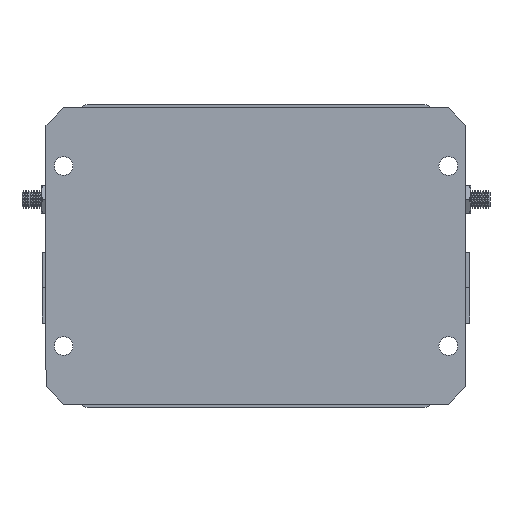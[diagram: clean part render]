
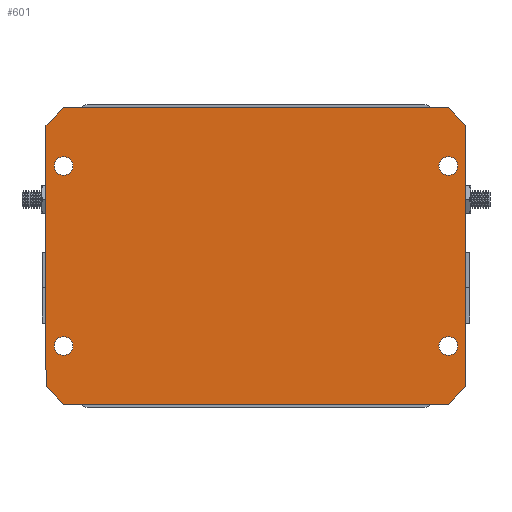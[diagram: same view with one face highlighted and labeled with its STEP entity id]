
A CAD part, front view. The second image highlights one B-rep face of the part: STEP entity #601.
In plain terms, the highlighted planar face has unit normal (0, -1, 0).
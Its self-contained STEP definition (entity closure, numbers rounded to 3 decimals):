
#132 = EDGE_CURVE ( 'NONE', #947, #4881, #6973, .T. ) ;
#133 = CIRCLE ( 'NONE', #2705, 2.65 ) ;
#193 = EDGE_CURVE ( 'NONE', #4598, #6198, #914, .T. ) ;
#228 = EDGE_CURVE ( 'NONE', #1723, #5619, #1103, .T. ) ;
#312 = PLANE ( 'NONE',  #2478 ) ;
#375 = ORIENTED_EDGE ( 'NONE', *, *, #6535, .F. ) ;
#391 = CARTESIAN_POINT ( 'NONE',  ( -104., -1.2, -68.5 ) ) ;
#417 = CARTESIAN_POINT ( 'NONE',  ( 5., -1.2, -68.5 ) ) ;
#507 = AXIS2_PLACEMENT_3D ( 'NONE', #5393, #4198, #525 ) ;
#525 = DIRECTION ( 'NONE',  ( 0., 0., 1. ) ) ;
#601 = ADVANCED_FACE ( 'NONE', ( #7965, #768, #3085, #958, #6072 ), #312, .T. ) ;
#612 = CARTESIAN_POINT ( 'NONE',  ( -104., -1.2, -85. ) ) ;
#752 = CIRCLE ( 'NONE', #2313, 2.65 ) ;
#768 = FACE_BOUND ( 'NONE', #3911, .T. ) ;
#791 = CARTESIAN_POINT ( 'NONE',  ( -109., -1.2, -1. ) ) ;
#850 = CARTESIAN_POINT ( 'NONE',  ( -10., -1.2, -100. ) ) ;
#914 = LINE ( 'NONE', #4126, #2171 ) ;
#919 = VECTOR ( 'NONE', #7875, 1000. ) ;
#942 = CARTESIAN_POINT ( 'NONE',  ( 10., -1.2, -80. ) ) ;
#947 = VERTEX_POINT ( 'NONE', #3669 ) ;
#958 = FACE_BOUND ( 'NONE', #4699, .T. ) ;
#1019 = CARTESIAN_POINT ( 'NONE',  ( -104., -1.2, -71.15 ) ) ;
#1035 = ORIENTED_EDGE ( 'NONE', *, *, #2577, .F. ) ;
#1079 = DIRECTION ( 'NONE',  ( 0., -1., 0. ) ) ;
#1099 = LINE ( 'NONE', #2794, #7264 ) ;
#1103 = LINE ( 'NONE', #7756, #5627 ) ;
#1287 = CARTESIAN_POINT ( 'NONE',  ( -104., -1.2, -65.85 ) ) ;
#1399 = DIRECTION ( 'NONE',  ( 0., 0., -1. ) ) ;
#1604 = DIRECTION ( 'NONE',  ( 0., 0., -1. ) ) ;
#1723 = VERTEX_POINT ( 'NONE', #942 ) ;
#1784 = VERTEX_POINT ( 'NONE', #2339 ) ;
#1894 = DIRECTION ( 'NONE',  ( 0., -1., 0. ) ) ;
#1913 = CARTESIAN_POINT ( 'NONE',  ( -106.5, -1.2, -3.5 ) ) ;
#1921 = DIRECTION ( 'NONE',  ( 0., 0., -1. ) ) ;
#1936 = EDGE_CURVE ( 'NONE', #2218, #3774, #5848, .T. ) ;
#2119 = CARTESIAN_POINT ( 'NONE',  ( -104., -1.2, -14.85 ) ) ;
#2171 = VECTOR ( 'NONE', #7242, 1000. ) ;
#2218 = VERTEX_POINT ( 'NONE', #2926 ) ;
#2243 = DIRECTION ( 'NONE',  ( 0., 0., -1. ) ) ;
#2313 = AXIS2_PLACEMENT_3D ( 'NONE', #6822, #1894, #1921 ) ;
#2316 = CARTESIAN_POINT ( 'NONE',  ( 5., -1.2, -1. ) ) ;
#2339 = CARTESIAN_POINT ( 'NONE',  ( 5., -1.2, -14.85 ) ) ;
#2420 = VERTEX_POINT ( 'NONE', #2119 ) ;
#2435 = EDGE_CURVE ( 'NONE', #2908, #1723, #3538, .T. ) ;
#2478 = AXIS2_PLACEMENT_3D ( 'NONE', #5303, #7740, #1604 ) ;
#2522 = ORIENTED_EDGE ( 'NONE', *, *, #7227, .F. ) ;
#2568 = CIRCLE ( 'NONE', #4184, 2.65 ) ;
#2577 = EDGE_CURVE ( 'NONE', #1784, #2619, #3817, .T. ) ;
#2600 = ORIENTED_EDGE ( 'NONE', *, *, #3293, .T. ) ;
#2619 = VERTEX_POINT ( 'NONE', #2884 ) ;
#2705 = AXIS2_PLACEMENT_3D ( 'NONE', #391, #3519, #2243 ) ;
#2737 = DIRECTION ( 'NONE',  ( 0., -1., 0. ) ) ;
#2780 = EDGE_CURVE ( 'NONE', #4881, #947, #6604, .T. ) ;
#2794 = CARTESIAN_POINT ( 'NONE',  ( -109., -1.2, -85. ) ) ;
#2805 = CARTESIAN_POINT ( 'NONE',  ( 5., -1.2, -85. ) ) ;
#2866 = ORIENTED_EDGE ( 'NONE', *, *, #4357, .T. ) ;
#2884 = CARTESIAN_POINT ( 'NONE',  ( 5., -1.2, -20.15 ) ) ;
#2908 = VERTEX_POINT ( 'NONE', #2805 ) ;
#2926 = CARTESIAN_POINT ( 'NONE',  ( -109., -1.2, -6. ) ) ;
#3000 = ORIENTED_EDGE ( 'NONE', *, *, #3564, .F. ) ;
#3039 = LINE ( 'NONE', #6931, #3611 ) ;
#3085 = FACE_OUTER_BOUND ( 'NONE', #7287, .T. ) ;
#3153 = VECTOR ( 'NONE', #3918, 1000. ) ;
#3196 = ORIENTED_EDGE ( 'NONE', *, *, #228, .T. ) ;
#3293 = EDGE_CURVE ( 'NONE', #5619, #4598, #3039, .T. ) ;
#3450 = CIRCLE ( 'NONE', #3738, 2.65 ) ;
#3477 = ORIENTED_EDGE ( 'NONE', *, *, #6287, .F. ) ;
#3519 = DIRECTION ( 'NONE',  ( 0., -1., 0. ) ) ;
#3538 = LINE ( 'NONE', #850, #3153 ) ;
#3564 = EDGE_CURVE ( 'NONE', #7175, #4219, #133, .T. ) ;
#3611 = VECTOR ( 'NONE', #5679, 1000. ) ;
#3669 = CARTESIAN_POINT ( 'NONE',  ( 5., -1.2, -71.15 ) ) ;
#3738 = AXIS2_PLACEMENT_3D ( 'NONE', #5750, #2737, #6950 ) ;
#3774 = VERTEX_POINT ( 'NONE', #5605 ) ;
#3817 = CIRCLE ( 'NONE', #507, 2.65 ) ;
#3832 = CARTESIAN_POINT ( 'NONE',  ( 5., -1.2, -17.5 ) ) ;
#3911 = EDGE_LOOP ( 'NONE', ( #375, #3477 ) ) ;
#3918 = DIRECTION ( 'NONE',  ( 0.707, 0., 0.707 ) ) ;
#4019 = EDGE_LOOP ( 'NONE', ( #6085, #6239 ) ) ;
#4024 = DIRECTION ( 'NONE',  ( 1., 0., 0. ) ) ;
#4126 = CARTESIAN_POINT ( 'NONE',  ( -109., -1.2, -1. ) ) ;
#4184 = AXIS2_PLACEMENT_3D ( 'NONE', #3832, #4997, #5628 ) ;
#4198 = DIRECTION ( 'NONE',  ( 0., -1., 0. ) ) ;
#4219 = VERTEX_POINT ( 'NONE', #1019 ) ;
#4357 = EDGE_CURVE ( 'NONE', #3774, #6926, #6788, .T. ) ;
#4511 = ORIENTED_EDGE ( 'NONE', *, *, #193, .T. ) ;
#4584 = VECTOR ( 'NONE', #5604, 1000. ) ;
#4598 = VERTEX_POINT ( 'NONE', #2316 ) ;
#4699 = EDGE_LOOP ( 'NONE', ( #3000, #6655 ) ) ;
#4736 = DIRECTION ( 'NONE',  ( 0., 0., 1. ) ) ;
#4766 = CARTESIAN_POINT ( 'NONE',  ( 5., -1.2, -68.5 ) ) ;
#4881 = VERTEX_POINT ( 'NONE', #6192 ) ;
#4930 = DIRECTION ( 'NONE',  ( 0., 0., -1. ) ) ;
#4997 = DIRECTION ( 'NONE',  ( 0., -1., 0. ) ) ;
#5203 = AXIS2_PLACEMENT_3D ( 'NONE', #417, #5288, #6564 ) ;
#5256 = VERTEX_POINT ( 'NONE', #7054 ) ;
#5288 = DIRECTION ( 'NONE',  ( 0., -1., 0. ) ) ;
#5303 = CARTESIAN_POINT ( 'NONE',  ( -109., -1.2, -1. ) ) ;
#5393 = CARTESIAN_POINT ( 'NONE',  ( 5., -1.2, -17.5 ) ) ;
#5404 = EDGE_CURVE ( 'NONE', #4219, #7175, #752, .T. ) ;
#5410 = AXIS2_PLACEMENT_3D ( 'NONE', #4766, #1079, #7861 ) ;
#5601 = CARTESIAN_POINT ( 'NONE',  ( 10., -1.2, -6. ) ) ;
#5604 = DIRECTION ( 'NONE',  ( -0.707, 0., -0.707 ) ) ;
#5605 = CARTESIAN_POINT ( 'NONE',  ( -109., -1.2, -80. ) ) ;
#5619 = VERTEX_POINT ( 'NONE', #5601 ) ;
#5627 = VECTOR ( 'NONE', #4736, 1000. ) ;
#5628 = DIRECTION ( 'NONE',  ( 0., 0., 1. ) ) ;
#5679 = DIRECTION ( 'NONE',  ( -0.707, 0., 0.707 ) ) ;
#5750 = CARTESIAN_POINT ( 'NONE',  ( -104., -1.2, -17.5 ) ) ;
#5848 = LINE ( 'NONE', #791, #6714 ) ;
#5986 = CARTESIAN_POINT ( 'NONE',  ( -104., -1.2, -1. ) ) ;
#6072 = FACE_BOUND ( 'NONE', #6275, .T. ) ;
#6085 = ORIENTED_EDGE ( 'NONE', *, *, #2780, .F. ) ;
#6192 = CARTESIAN_POINT ( 'NONE',  ( 5., -1.2, -65.85 ) ) ;
#6198 = VERTEX_POINT ( 'NONE', #5986 ) ;
#6239 = ORIENTED_EDGE ( 'NONE', *, *, #132, .F. ) ;
#6275 = EDGE_LOOP ( 'NONE', ( #1035, #2522 ) ) ;
#6287 = EDGE_CURVE ( 'NONE', #5256, #2420, #7471, .T. ) ;
#6535 = EDGE_CURVE ( 'NONE', #2420, #5256, #3450, .T. ) ;
#6564 = DIRECTION ( 'NONE',  ( 0., 0., 1. ) ) ;
#6604 = CIRCLE ( 'NONE', #5410, 2.65 ) ;
#6655 = ORIENTED_EDGE ( 'NONE', *, *, #5404, .F. ) ;
#6714 = VECTOR ( 'NONE', #1399, 1000. ) ;
#6788 = LINE ( 'NONE', #7289, #919 ) ;
#6806 = LINE ( 'NONE', #1913, #4584 ) ;
#6822 = CARTESIAN_POINT ( 'NONE',  ( -104., -1.2, -68.5 ) ) ;
#6895 = ORIENTED_EDGE ( 'NONE', *, *, #1936, .T. ) ;
#6926 = VERTEX_POINT ( 'NONE', #612 ) ;
#6931 = CARTESIAN_POINT ( 'NONE',  ( -52., -1.2, 56. ) ) ;
#6950 = DIRECTION ( 'NONE',  ( 0., 0., -1. ) ) ;
#6973 = CIRCLE ( 'NONE', #5203, 2.65 ) ;
#7024 = AXIS2_PLACEMENT_3D ( 'NONE', #7363, #7390, #4930 ) ;
#7054 = CARTESIAN_POINT ( 'NONE',  ( -104., -1.2, -20.15 ) ) ;
#7147 = ORIENTED_EDGE ( 'NONE', *, *, #7215, .T. ) ;
#7175 = VERTEX_POINT ( 'NONE', #1287 ) ;
#7215 = EDGE_CURVE ( 'NONE', #6198, #2218, #6806, .T. ) ;
#7227 = EDGE_CURVE ( 'NONE', #2619, #1784, #2568, .T. ) ;
#7242 = DIRECTION ( 'NONE',  ( -1., 0., 0. ) ) ;
#7264 = VECTOR ( 'NONE', #4024, 1000. ) ;
#7287 = EDGE_LOOP ( 'NONE', ( #6895, #2866, #7602, #7369, #3196, #2600, #4511, #7147 ) ) ;
#7289 = CARTESIAN_POINT ( 'NONE',  ( -148.5, -1.2, -40.5 ) ) ;
#7363 = CARTESIAN_POINT ( 'NONE',  ( -104., -1.2, -17.5 ) ) ;
#7369 = ORIENTED_EDGE ( 'NONE', *, *, #2435, .T. ) ;
#7390 = DIRECTION ( 'NONE',  ( 0., -1., 0. ) ) ;
#7471 = CIRCLE ( 'NONE', #7024, 2.65 ) ;
#7602 = ORIENTED_EDGE ( 'NONE', *, *, #7792, .T. ) ;
#7740 = DIRECTION ( 'NONE',  ( 0., -1., 0. ) ) ;
#7756 = CARTESIAN_POINT ( 'NONE',  ( 10., -1.2, -1. ) ) ;
#7792 = EDGE_CURVE ( 'NONE', #6926, #2908, #1099, .T. ) ;
#7861 = DIRECTION ( 'NONE',  ( 0., 0., 1. ) ) ;
#7875 = DIRECTION ( 'NONE',  ( 0.707, 0., -0.707 ) ) ;
#7965 = FACE_BOUND ( 'NONE', #4019, .T. ) ;
